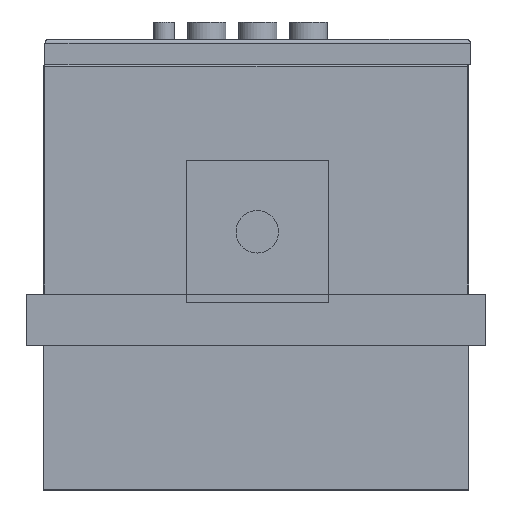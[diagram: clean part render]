
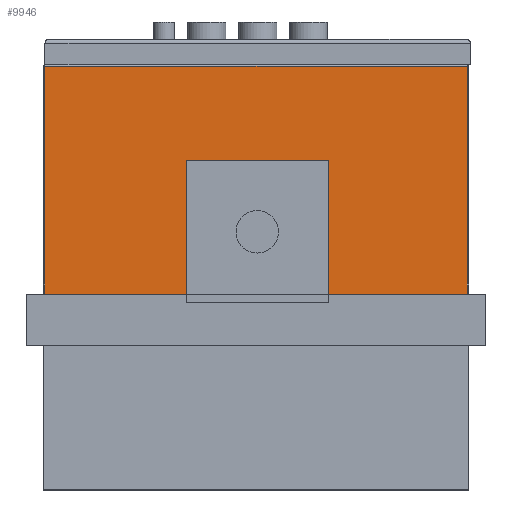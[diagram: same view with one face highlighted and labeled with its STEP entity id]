
A CAD part, left-side view. The second image highlights one B-rep face of the part: STEP entity #9946.
In plain terms, the highlighted planar face has unit normal (-1, 0, 0).
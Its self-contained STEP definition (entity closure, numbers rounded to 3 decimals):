
#198 = EDGE_CURVE ( 'NONE', #8817, #10944, #3004, .T. ) ;
#448 = EDGE_CURVE ( 'NONE', #3473, #11814, #4477, .T. ) ;
#605 = LINE ( 'NONE', #5966, #8061 ) ;
#608 = LINE ( 'NONE', #9802, #7037 ) ;
#683 = CARTESIAN_POINT ( 'NONE',  ( -35., 0.2, -24.8 ) ) ;
#800 = CARTESIAN_POINT ( 'NONE',  ( -35., 0.2, -25. ) ) ;
#989 = CARTESIAN_POINT ( 'NONE',  ( -35., 3., 7.3 ) ) ;
#1003 = CARTESIAN_POINT ( 'NONE',  ( -35., 29.8, -25. ) ) ;
#1038 = DIRECTION ( 'NONE',  ( 0., 0., -1. ) ) ;
#1375 = ORIENTED_EDGE ( 'NONE', *, *, #4655, .T. ) ;
#1398 = EDGE_CURVE ( 'NONE', #10017, #2757, #6182, .T. ) ;
#1467 = PLANE ( 'NONE',  #8344 ) ;
#1566 = EDGE_CURVE ( 'NONE', #6813, #11131, #1888, .T. ) ;
#1723 = VECTOR ( 'NONE', #7234, 1000. ) ;
#1888 = LINE ( 'NONE', #800, #3660 ) ;
#2757 = VERTEX_POINT ( 'NONE', #989 ) ;
#2854 = EDGE_LOOP ( 'NONE', ( #5055, #4368, #3965, #4539, #8583, #1375 ) ) ;
#2894 = VECTOR ( 'NONE', #11553, 1000. ) ;
#2910 = CARTESIAN_POINT ( 'NONE',  ( -35., 3., -7.3 ) ) ;
#3004 = LINE ( 'NONE', #1003, #5744 ) ;
#3042 = DIRECTION ( 'NONE',  ( 0., 1., 0. ) ) ;
#3111 = LINE ( 'NONE', #4898, #5187 ) ;
#3169 = CARTESIAN_POINT ( 'NONE',  ( -35., 3.2, 7.3 ) ) ;
#3190 = ORIENTED_EDGE ( 'NONE', *, *, #198, .T. ) ;
#3449 = FACE_BOUND ( 'NONE', #2854, .T. ) ;
#3473 = VERTEX_POINT ( 'NONE', #10012 ) ;
#3659 = EDGE_CURVE ( 'NONE', #11814, #8640, #7921, .T. ) ;
#3660 = VECTOR ( 'NONE', #5553, 1000. ) ;
#3721 = DIRECTION ( 'NONE',  ( 0., 0., -1. ) ) ;
#3963 = EDGE_CURVE ( 'NONE', #11131, #8817, #3111, .T. ) ;
#3965 = ORIENTED_EDGE ( 'NONE', *, *, #3659, .F. ) ;
#4106 = DIRECTION ( 'NONE',  ( 0., -1., 0. ) ) ;
#4277 = EDGE_CURVE ( 'NONE', #10017, #8640, #7098, .T. ) ;
#4368 = ORIENTED_EDGE ( 'NONE', *, *, #4277, .T. ) ;
#4410 = EDGE_CURVE ( 'NONE', #10944, #6813, #605, .T. ) ;
#4477 = LINE ( 'NONE', #7356, #1723 ) ;
#4539 = ORIENTED_EDGE ( 'NONE', *, *, #448, .F. ) ;
#4655 = EDGE_CURVE ( 'NONE', #7162, #2757, #9019, .T. ) ;
#4898 = CARTESIAN_POINT ( 'NONE',  ( -35., 30., 24.8 ) ) ;
#5055 = ORIENTED_EDGE ( 'NONE', *, *, #1398, .F. ) ;
#5187 = VECTOR ( 'NONE', #3042, 1000. ) ;
#5277 = CARTESIAN_POINT ( 'NONE',  ( -35., 3., 7.5 ) ) ;
#5553 = DIRECTION ( 'NONE',  ( 0., 0., 1. ) ) ;
#5744 = VECTOR ( 'NONE', #3721, 1000. ) ;
#5790 = DIRECTION ( 'NONE',  ( 0., 0., -1. ) ) ;
#5963 = VECTOR ( 'NONE', #8935, 1000. ) ;
#5966 = CARTESIAN_POINT ( 'NONE',  ( -35., 30., -24.8 ) ) ;
#6182 = LINE ( 'NONE', #5277, #5963 ) ;
#6210 = DIRECTION ( 'NONE',  ( 0., 0., -1. ) ) ;
#6629 = DIRECTION ( 'NONE',  ( 1., 0., 0. ) ) ;
#6692 = CARTESIAN_POINT ( 'NONE',  ( -35., 18., -7.5 ) ) ;
#6751 = DIRECTION ( 'NONE',  ( 1., 0., 0. ) ) ;
#6813 = VERTEX_POINT ( 'NONE', #683 ) ;
#6913 = AXIS2_PLACEMENT_3D ( 'NONE', #3169, #6751, #1038 ) ;
#6953 = CARTESIAN_POINT ( 'NONE',  ( -35., 3., -7.5 ) ) ;
#7037 = VECTOR ( 'NONE', #8854, 1000. ) ;
#7098 = CIRCLE ( 'NONE', #9777, 0.2 ) ;
#7162 = VERTEX_POINT ( 'NONE', #8066 ) ;
#7191 = EDGE_CURVE ( 'NONE', #7162, #3473, #608, .T. ) ;
#7234 = DIRECTION ( 'NONE',  ( 0., 0., -1. ) ) ;
#7356 = CARTESIAN_POINT ( 'NONE',  ( -35., 18., 7.5 ) ) ;
#7470 = CARTESIAN_POINT ( 'NONE',  ( -35., 3.2, -7.3 ) ) ;
#7921 = LINE ( 'NONE', #6953, #2894 ) ;
#8018 = FACE_OUTER_BOUND ( 'NONE', #9224, .T. ) ;
#8030 = CARTESIAN_POINT ( 'NONE',  ( -35., 3.2, -7.5 ) ) ;
#8050 = ORIENTED_EDGE ( 'NONE', *, *, #1566, .T. ) ;
#8061 = VECTOR ( 'NONE', #4106, 1000. ) ;
#8066 = CARTESIAN_POINT ( 'NONE',  ( -35., 3.2, 7.5 ) ) ;
#8235 = ORIENTED_EDGE ( 'NONE', *, *, #3963, .T. ) ;
#8344 = AXIS2_PLACEMENT_3D ( 'NONE', #11594, #11648, #6210 ) ;
#8559 = CARTESIAN_POINT ( 'NONE',  ( -35., 29.8, 24.8 ) ) ;
#8583 = ORIENTED_EDGE ( 'NONE', *, *, #7191, .F. ) ;
#8640 = VERTEX_POINT ( 'NONE', #8030 ) ;
#8817 = VERTEX_POINT ( 'NONE', #8559 ) ;
#8854 = DIRECTION ( 'NONE',  ( 0., 1., 0. ) ) ;
#8935 = DIRECTION ( 'NONE',  ( 0., 0., 1. ) ) ;
#9019 = CIRCLE ( 'NONE', #6913, 0.2 ) ;
#9224 = EDGE_LOOP ( 'NONE', ( #3190, #11037, #8050, #8235 ) ) ;
#9777 = AXIS2_PLACEMENT_3D ( 'NONE', #7470, #6629, #5790 ) ;
#9802 = CARTESIAN_POINT ( 'NONE',  ( -35., 3., 7.5 ) ) ;
#9946 = ADVANCED_FACE ( 'NONE', ( #8018, #3449 ), #1467, .F. ) ;
#10012 = CARTESIAN_POINT ( 'NONE',  ( -35., 18., 7.5 ) ) ;
#10017 = VERTEX_POINT ( 'NONE', #2910 ) ;
#10944 = VERTEX_POINT ( 'NONE', #11321 ) ;
#11037 = ORIENTED_EDGE ( 'NONE', *, *, #4410, .T. ) ;
#11131 = VERTEX_POINT ( 'NONE', #11377 ) ;
#11321 = CARTESIAN_POINT ( 'NONE',  ( -35., 29.8, -24.8 ) ) ;
#11377 = CARTESIAN_POINT ( 'NONE',  ( -35., 0.2, 24.8 ) ) ;
#11553 = DIRECTION ( 'NONE',  ( 0., -1., 0. ) ) ;
#11594 = CARTESIAN_POINT ( 'NONE',  ( -35., 30., -25. ) ) ;
#11648 = DIRECTION ( 'NONE',  ( 1., 0., 0. ) ) ;
#11814 = VERTEX_POINT ( 'NONE', #6692 ) ;
